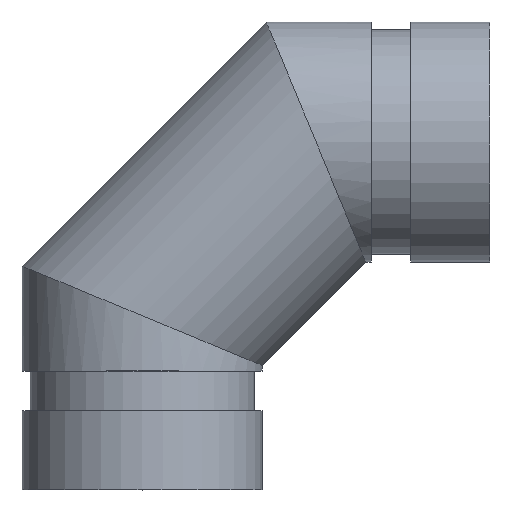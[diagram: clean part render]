
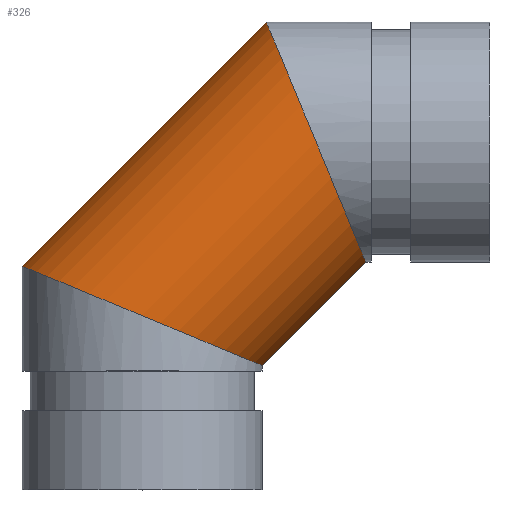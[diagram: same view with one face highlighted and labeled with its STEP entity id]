
A CAD part, top view. The second image highlights one B-rep face of the part: STEP entity #326.
In plain terms, the highlighted cylindrical face has radius 24.13 mm (diameter 48.26 mm), a full revolution.
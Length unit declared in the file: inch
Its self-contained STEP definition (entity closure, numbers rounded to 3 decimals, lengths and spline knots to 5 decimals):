
#51=ELLIPSE('',#383,1.02827,0.95);
#52=ELLIPSE('',#384,1.02827,0.95);
#53=ELLIPSE('',#385,1.02827,0.95);
#54=ELLIPSE('',#388,1.02827,0.95);
#55=ELLIPSE('',#389,1.02827,0.95);
#56=ELLIPSE('',#390,1.02827,0.95);
#82=FACE_OUTER_BOUND('',#103,.T.);
#103=EDGE_LOOP('',(#269,#270,#271,#272,#273,#274,#275,#276));
#115=LINE('',#606,#125);
#125=VECTOR('',#494,0.95);
#165=VERTEX_POINT('',#596);
#166=VERTEX_POINT('',#598);
#167=VERTEX_POINT('',#600);
#168=VERTEX_POINT('',#605);
#169=VERTEX_POINT('',#607);
#170=VERTEX_POINT('',#609);
#201=EDGE_CURVE('',#165,#166,#51,.T.);
#202=EDGE_CURVE('',#167,#166,#52,.T.);
#203=EDGE_CURVE('',#167,#165,#53,.T.);
#204=EDGE_CURVE('',#165,#168,#115,.T.);
#205=EDGE_CURVE('',#168,#169,#54,.T.);
#206=EDGE_CURVE('',#170,#169,#55,.T.);
#207=EDGE_CURVE('',#170,#168,#56,.T.);
#269=ORIENTED_EDGE('',*,*,#203,.F.);
#270=ORIENTED_EDGE('',*,*,#202,.T.);
#271=ORIENTED_EDGE('',*,*,#201,.F.);
#272=ORIENTED_EDGE('',*,*,#204,.T.);
#273=ORIENTED_EDGE('',*,*,#205,.T.);
#274=ORIENTED_EDGE('',*,*,#206,.F.);
#275=ORIENTED_EDGE('',*,*,#207,.T.);
#276=ORIENTED_EDGE('',*,*,#204,.F.);
#293=CYLINDRICAL_SURFACE('',#387,0.95);
#326=ADVANCED_FACE('',(#82),#293,.T.);
#383=AXIS2_PLACEMENT_3D('',#599,#484,#485);
#384=AXIS2_PLACEMENT_3D('',#601,#486,#487);
#385=AXIS2_PLACEMENT_3D('',#602,#488,#489);
#387=AXIS2_PLACEMENT_3D('',#604,#492,#493);
#388=AXIS2_PLACEMENT_3D('',#608,#495,#496);
#389=AXIS2_PLACEMENT_3D('',#610,#497,#498);
#390=AXIS2_PLACEMENT_3D('',#611,#499,#500);
#484=DIRECTION('center_axis',(-0.383,-0.924,0.));
#485=DIRECTION('ref_axis',(0.924,-0.383,0.));
#486=DIRECTION('center_axis',(0.383,0.924,0.));
#487=DIRECTION('ref_axis',(0.924,-0.383,0.));
#488=DIRECTION('center_axis',(-0.383,-0.924,0.));
#489=DIRECTION('ref_axis',(0.924,-0.383,0.));
#492=DIRECTION('center_axis',(-0.707,-0.707,0.));
#493=DIRECTION('ref_axis',(0.707,-0.707,0.));
#494=DIRECTION('',(0.707,0.707,0.));
#495=DIRECTION('center_axis',(-0.924,-0.383,0.));
#496=DIRECTION('ref_axis',(0.383,-0.924,0.));
#497=DIRECTION('center_axis',(0.924,0.383,0.));
#498=DIRECTION('ref_axis',(0.383,-0.924,0.));
#499=DIRECTION('center_axis',(-0.924,-0.383,0.));
#500=DIRECTION('ref_axis',(0.383,-0.924,0.));
#596=CARTESIAN_POINT('',(-0.95,-0.9815,0.));
#598=CARTESIAN_POINT('',(0.,-1.375,-0.95));
#599=CARTESIAN_POINT('Origin',(0.,-1.375,0.));
#600=CARTESIAN_POINT('',(0.,-1.375,0.95));
#601=CARTESIAN_POINT('Origin',(0.,-1.375,0.));
#602=CARTESIAN_POINT('Origin',(0.,-1.375,0.));
#604=CARTESIAN_POINT('Origin',(1.375,0.,0.));
#605=CARTESIAN_POINT('',(0.9815,0.95,0.));
#606=CARTESIAN_POINT('',(0.70325,0.67175,0.));
#607=CARTESIAN_POINT('',(1.375,0.,-0.95));
#608=CARTESIAN_POINT('Origin',(1.375,0.,0.));
#609=CARTESIAN_POINT('',(1.375,0.,0.95));
#610=CARTESIAN_POINT('Origin',(1.375,0.,0.));
#611=CARTESIAN_POINT('Origin',(1.375,0.,0.));
